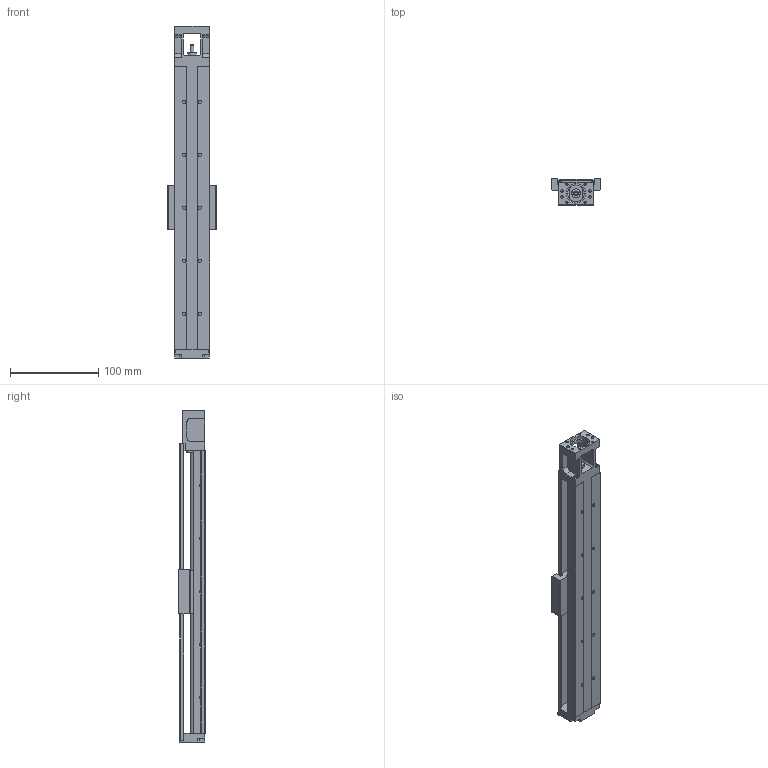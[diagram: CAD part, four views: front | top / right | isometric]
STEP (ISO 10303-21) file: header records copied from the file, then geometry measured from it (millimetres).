
FILE_DESCRIPTION (( 'STEP AP203' ), '1' );
FILE_NAME ('GSX40C-250-LL08025-P7.STEP', '2013-11-02T01:38:23', ( '微软用户' ), ( '微软中国' ), 'SwSTEP 2.0', 'SolidWorks 2010', '' );
FILE_SCHEMA (( 'CONFIG_CONTROL_DESIGN' ));
Length unit declared in the file: millimetre
Products named in the file (1): GSX40C-250-LL08025-P7
Bounding box: 55 x 30 x 376 mm (x, y, z)
Volume: 195599.7 mm3; surface area: 102991.9 mm2
Topology: 2 solids, 8 shells, 434 faces, 1144 edges, 715 vertices
Faces by surface type: cylinder 183, plane 175, cone 76
Entity records: 13716 total; most frequent: CARTESIAN_POINT 2796, DIRECTION 2303, ORIENTED_EDGE 2208, EDGE_CURVE 1104, AXIS2_PLACEMENT_3D 834, VERTEX_POINT 715, VECTOR 635, LINE 635
